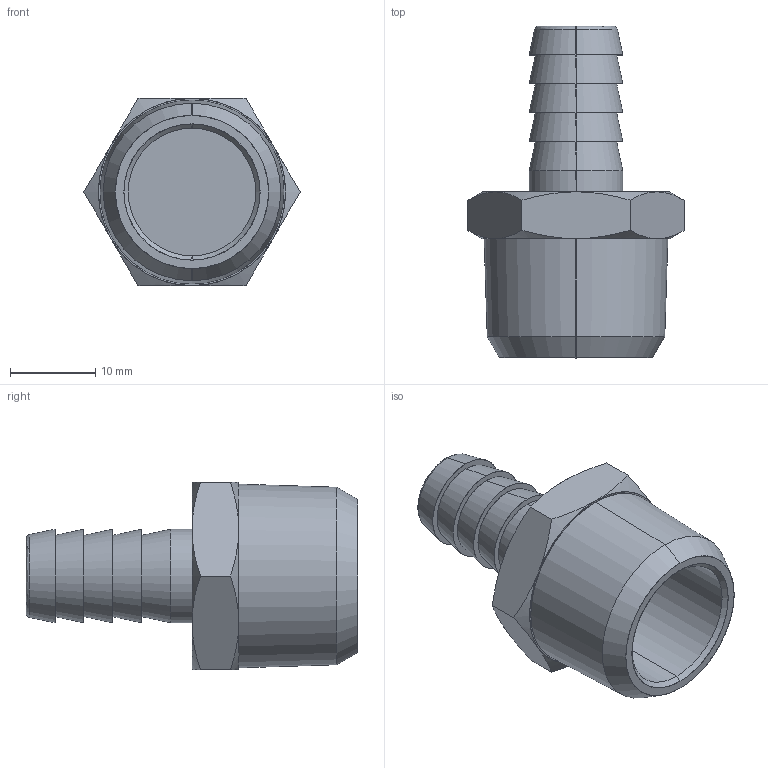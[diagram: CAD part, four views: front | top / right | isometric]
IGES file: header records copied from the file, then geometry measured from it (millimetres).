
Start section: SolidWorks IGES file using analytic representation for surfaces
Global section: file name: K:\Disegni Esecutivi\ACCESSORI\3040\ASSIEMI_.IGES_3040\30400001VF00A.IGS; native system: SolidWorks 2016; preprocessor: SolidWorks 2016; author: cad08; date: 190612.141226; units: millimetre
Bounding box: 25.4 x 39 x 22 mm (x, y, z)
Surface area: 3995.1 mm2 (no closed solid volume)
Topology: 0 solids, 0 shells, 52 faces, 920 edges, 920 vertices
Faces by surface type: revolution 34, bspline 18
